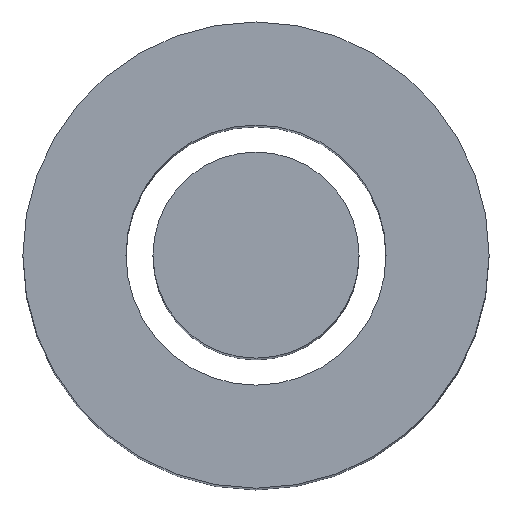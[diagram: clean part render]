
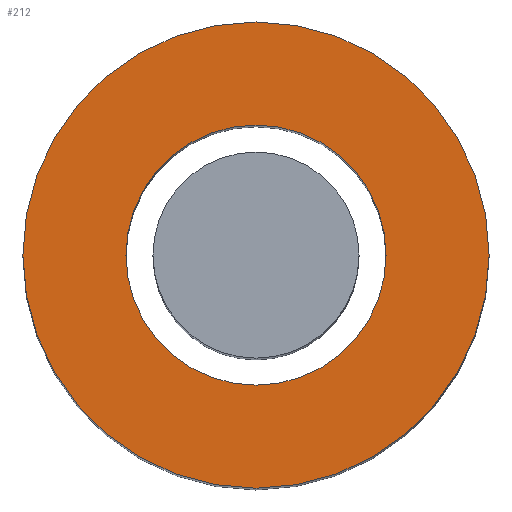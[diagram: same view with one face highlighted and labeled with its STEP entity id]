
A CAD part, top view. The second image highlights one B-rep face of the part: STEP entity #212.
In plain terms, the highlighted planar face has unit normal (0, 0, 1).
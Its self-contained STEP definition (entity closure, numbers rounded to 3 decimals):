
#46 = VERTEX_POINT('',#47);
#47 = CARTESIAN_POINT('',(4.525,0.,20.));
#54 = CYLINDRICAL_SURFACE('',#55,4.525);
#55 = AXIS2_PLACEMENT_3D('',#56,#57,#58);
#56 = CARTESIAN_POINT('',(0.,0.,0.));
#57 = DIRECTION('',(-0.,-0.,-1.));
#58 = DIRECTION('',(1.,0.,0.));
#73 = EDGE_CURVE('',#46,#46,#74,.T.);
#74 = SURFACE_CURVE('',#75,(#80,#87),.PCURVE_S1.);
#75 = CIRCLE('',#76,4.525);
#76 = AXIS2_PLACEMENT_3D('',#77,#78,#79);
#77 = CARTESIAN_POINT('',(0.,0.,20.));
#78 = DIRECTION('',(0.,0.,1.));
#79 = DIRECTION('',(1.,0.,0.));
#80 = PCURVE('',#54,#81);
#81 = DEFINITIONAL_REPRESENTATION('',(#82),#86);
#82 = LINE('',#83,#84);
#83 = CARTESIAN_POINT('',(-0.,-20.));
#84 = VECTOR('',#85,1.);
#85 = DIRECTION('',(-1.,0.));
#86 = ( GEOMETRIC_REPRESENTATION_CONTEXT(2) 
PARAMETRIC_REPRESENTATION_CONTEXT() REPRESENTATION_CONTEXT('2D SPACE',''
  ) );
#87 = PCURVE('',#88,#93);
#88 = PLANE('',#89);
#89 = AXIS2_PLACEMENT_3D('',#90,#91,#92);
#90 = CARTESIAN_POINT('',(0.,0.,20.));
#91 = DIRECTION('',(0.,0.,1.));
#92 = DIRECTION('',(1.,0.,-0.));
#93 = DEFINITIONAL_REPRESENTATION('',(#94),#98);
#94 = CIRCLE('',#95,4.525);
#95 = AXIS2_PLACEMENT_2D('',#96,#97);
#96 = CARTESIAN_POINT('',(0.,0.));
#97 = DIRECTION('',(1.,0.));
#98 = ( GEOMETRIC_REPRESENTATION_CONTEXT(2) 
PARAMETRIC_REPRESENTATION_CONTEXT() REPRESENTATION_CONTEXT('2D SPACE',''
  ) );
#134 = VERTEX_POINT('',#135);
#135 = CARTESIAN_POINT('',(2.525,0.,20.));
#142 = CYLINDRICAL_SURFACE('',#143,2.525);
#143 = AXIS2_PLACEMENT_3D('',#144,#145,#146);
#144 = CARTESIAN_POINT('',(0.,0.,0.));
#145 = DIRECTION('',(-0.,-0.,-1.));
#146 = DIRECTION('',(1.,0.,0.));
#161 = EDGE_CURVE('',#134,#134,#162,.T.);
#162 = SURFACE_CURVE('',#163,(#168,#175),.PCURVE_S1.);
#163 = CIRCLE('',#164,2.525);
#164 = AXIS2_PLACEMENT_3D('',#165,#166,#167);
#165 = CARTESIAN_POINT('',(0.,0.,20.));
#166 = DIRECTION('',(0.,0.,1.));
#167 = DIRECTION('',(1.,0.,0.));
#168 = PCURVE('',#142,#169);
#169 = DEFINITIONAL_REPRESENTATION('',(#170),#174);
#170 = LINE('',#171,#172);
#171 = CARTESIAN_POINT('',(-0.,-20.));
#172 = VECTOR('',#173,1.);
#173 = DIRECTION('',(-1.,0.));
#174 = ( GEOMETRIC_REPRESENTATION_CONTEXT(2) 
PARAMETRIC_REPRESENTATION_CONTEXT() REPRESENTATION_CONTEXT('2D SPACE',''
  ) );
#175 = PCURVE('',#88,#176);
#176 = DEFINITIONAL_REPRESENTATION('',(#177),#181);
#177 = CIRCLE('',#178,2.525);
#178 = AXIS2_PLACEMENT_2D('',#179,#180);
#179 = CARTESIAN_POINT('',(0.,0.));
#180 = DIRECTION('',(1.,0.));
#181 = ( GEOMETRIC_REPRESENTATION_CONTEXT(2) 
PARAMETRIC_REPRESENTATION_CONTEXT() REPRESENTATION_CONTEXT('2D SPACE',''
  ) );
#212 = ADVANCED_FACE('',(#213,#216),#88,.T.);
#213 = FACE_BOUND('',#214,.T.);
#214 = EDGE_LOOP('',(#215));
#215 = ORIENTED_EDGE('',*,*,#73,.T.);
#216 = FACE_BOUND('',#217,.T.);
#217 = EDGE_LOOP('',(#218));
#218 = ORIENTED_EDGE('',*,*,#161,.F.);
